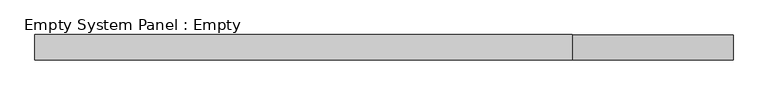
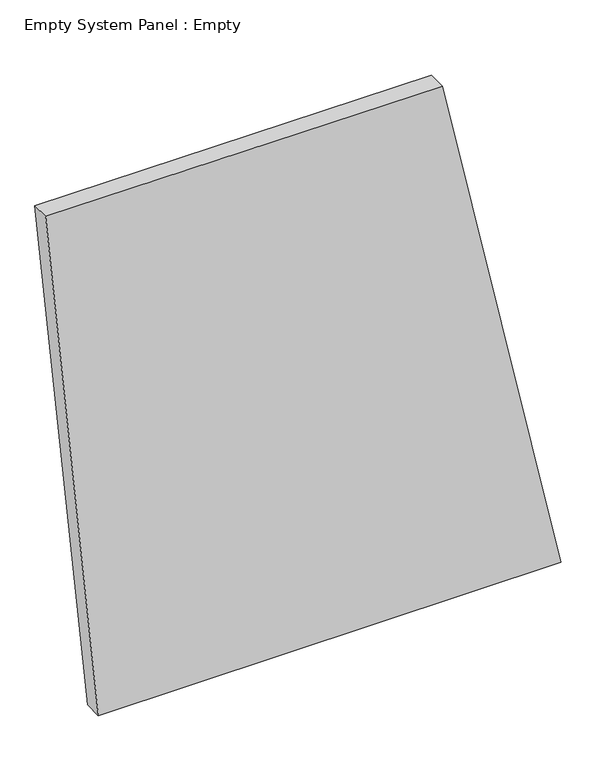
"""IFC4 building model written with IfcOpenShell, lengths in millimetres: plate geometry, Empty System Panel : Empty."""

import ifcopenshell
import ifcopenshell.guid

model = None  # the IFC model being written
_history = None  # IfcOwnerHistory: only IFC2X3 demands one
_inside = {}  # id of a spatial element -> (the spatial element, [elements in it])
_under = {}  # id of a project, library or spatial element -> (it, [spatial elements below it])
_declared = {}  # id of a project -> (the project, [libraries it declares])
_typed = {}  # id of a type object -> (the type object, [elements of that type])
_made_of = {}  # id of a material, layer set ... -> (it, [elements and type objects made of it])


def new_model(schema):
    """Start an empty IFC model of exactly this schema.

    Asked for "IFC4X3", IfcOpenShell would pick the latest addendum, in which some entities
    have other attributes; the version numbers below select the first issue.
    IFC2X3 requires an IfcOwnerHistory on every rooted entity: one is made here for all.
    """
    global model, _history
    if schema == "IFC4X3":
        model = ifcopenshell.file(schema_version=(4, 3, 0, 0))
    else:
        model = ifcopenshell.file(schema=schema)
    _inside.clear()
    _under.clear()
    _declared.clear()
    _typed.clear()
    _made_of.clear()
    _history = None
    if model.schema == "IFC2X3":
        org = make("IfcOrganization", Name="unknown")
        user = make(
            "IfcPersonAndOrganization",
            ThePerson=make("IfcPerson", FamilyName="unknown"),
            TheOrganization=org,
        )
        app = make(
            "IfcApplication",
            ApplicationDeveloper=org,
            Version="unknown",
            ApplicationFullName="unknown",
            ApplicationIdentifier="unknown",
        )
        _history = make(
            "IfcOwnerHistory",
            OwningUser=user,
            OwningApplication=app,
            ChangeAction="ADDED",
            CreationDate=0,
        )
    return model


def make(cls, **values):
    """One entity of the class cls with the attributes given. An attribute that is None is left unset."""
    return model.create_entity(
        cls, **{name: value for name, value in values.items() if value is not None}
    )


def rooted(cls, **values):
    """An entity with a GlobalId (a new one), such as an element, a storey or a relation."""
    return make(cls, GlobalId=ifcopenshell.guid.new(), OwnerHistory=_history, **values)


def si_unit(unit_type, name, prefix=None):
    """IfcSIUnit, for example si_unit("LENGTHUNIT", "METRE", prefix="MILLI")."""
    return make("IfcSIUnit", UnitType=unit_type, Prefix=prefix, Name=name)


def assignment(units):
    """IfcUnitAssignment: the units of a project."""
    return None if units is None else make("IfcUnitAssignment", Units=units)


def point(xyz):
    """IfcCartesianPoint."""
    return None if xyz is None else make("IfcCartesianPoint", Coordinates=xyz)


def direction(xyz):
    """IfcDirection."""
    return None if xyz is None else make("IfcDirection", DirectionRatios=xyz)


def frame(location, z_axis=None, x_axis=None):
    """IfcAxis2Placement3D, a coordinate frame: its origin and axes. An axis left out is left unset."""
    return make(
        "IfcAxis2Placement3D",
        Location=point(location),
        Axis=direction(z_axis),
        RefDirection=direction(x_axis),
    )


def origin():
    """The frame at (0, 0, 0) with its axes left unset."""
    return frame((0.0, 0.0, 0.0))


def place(relative_to, where):
    """IfcLocalPlacement: puts the frame where relative to a parent placement (None: the world)."""
    return make(
        "IfcLocalPlacement", PlacementRelTo=relative_to, RelativePlacement=where
    )


def context(
    kind, dimensions, precision=None, world=None, true_north=None, identifier=None
):
    """IfcGeometricRepresentationContext, for example the 3D "Model" context."""
    return make(
        "IfcGeometricRepresentationContext",
        ContextIdentifier=identifier,
        ContextType=kind,
        CoordinateSpaceDimension=dimensions,
        Precision=precision,
        WorldCoordinateSystem=world,
        TrueNorth=true_north,
    )


def project(units=None, contexts=None):
    """IfcProject with its units and contexts."""
    return rooted(
        "IfcProject",
        Name="project",
        RepresentationContexts=contexts,
        UnitsInContext=assignment(units),
    )


def spatial(cls, under=None, at=None, **own):
    """A site, building, storey or space (cls), placed at a placement, below another one or the project."""
    s = rooted(cls, ObjectPlacement=at, **own)
    if under is not None:
        _under.setdefault(under.id(), (under, []))[1].append(s)
    return s


def polyline(points):
    """IfcPolyline through the points."""
    return make("IfcPolyline", Points=[point(p) for p in points])


def outline(outer, holes=None, kind="AREA"):
    """IfcArbitraryClosedProfileDef: a profile drawn as a closed curve; with holes, ...WithVoids."""
    if holes is None:
        return make("IfcArbitraryClosedProfileDef", ProfileType=kind, OuterCurve=outer)
    return make(
        "IfcArbitraryProfileDefWithVoids",
        ProfileType=kind,
        OuterCurve=outer,
        InnerCurves=holes,
    )


def extrude(swept, where, along, depth):
    """IfcExtrudedAreaSolid: the profile swept, set in the frame where, extruded along a direction by depth."""
    return make(
        "IfcExtrudedAreaSolid",
        SweptArea=swept,
        Position=where,
        ExtrudedDirection=direction(along),
        Depth=depth,
    )


def shape(context_of_items, identifier, shape_type, items):
    """IfcShapeRepresentation: the items that make up one representation, for example the "Body"."""
    return make(
        "IfcShapeRepresentation",
        ContextOfItems=context_of_items,
        RepresentationIdentifier=identifier,
        RepresentationType=shape_type,
        Items=items,
    )


def source(mapping_origin, context_of_items, identifier, shape_type, items):
    """IfcRepresentationMap: a shape defined once, which mapped items show again and again."""
    return make(
        "IfcRepresentationMap",
        MappingOrigin=mapping_origin,
        MappedRepresentation=shape(context_of_items, identifier, shape_type, items),
    )


def transform(
    local_origin,
    x_axis=None,
    y_axis=None,
    z_axis=None,
    scale=None,
    scale2=None,
    scale3=None,
    uniform=True,
):
    """IfcCartesianTransformationOperator3D, or its non-uniform kind. x_axis, y_axis, z_axis: its Axis1, 2, 3."""
    if uniform:
        return make(
            "IfcCartesianTransformationOperator3D",
            Axis1=direction(x_axis),
            Axis2=direction(y_axis),
            LocalOrigin=point(local_origin),
            Scale=scale,
            Axis3=direction(z_axis),
        )
    return make(
        "IfcCartesianTransformationOperator3DnonUniform",
        Axis1=direction(x_axis),
        Axis2=direction(y_axis),
        LocalOrigin=point(local_origin),
        Scale=scale,
        Axis3=direction(z_axis),
        Scale2=scale2,
        Scale3=scale3,
    )


def mapped(mapping_source, mapping_target):
    """IfcMappedItem: shows the shape of a source again, moved by a transform."""
    return make(
        "IfcMappedItem", MappingSource=mapping_source, MappingTarget=mapping_target
    )


def made_of(thing, what):
    """Note that an element or type object is made of a material, layer set ...; save() writes the relation."""
    if what is not None:
        _made_of.setdefault(what.id(), (what, []))[1].append(thing)
    return thing


def element(
    cls,
    number,
    at=None,
    inside=None,
    cuts=None,
    type_object=None,
    material=None,
    context=None,
    identifier="Body",
    shape_type=None,
    held_by="IfcProductDefinitionShape",
    body=None,
    shapes=None,
    **own,
):
    """One element of the class cls, such as IfcWall. Its Tag is "e" and its number.

    at: its placement. inside: the storey or other place that contains it. cuts: it is an
    opening in that element (IfcRelVoidsElement). A single representation is given by context,
    identifier, shape_type and body (its items); several are given by shapes. held_by: the class
    of the entity that holds the representations. save() writes the other relations.
    """
    e = rooted(cls, Tag="e%d" % number, ObjectPlacement=at, **own)
    if body is not None:
        shapes = [shape(context, identifier, shape_type, body)]
    if shapes is not None:
        e.Representation = make(held_by, Representations=shapes)
    if inside is not None:
        _inside.setdefault(inside.id(), (inside, []))[1].append(e)
    if cuts is not None:
        rooted(
            "IfcRelVoidsElement", RelatingBuildingElement=cuts, RelatedOpeningElement=e
        )
    if type_object is not None:
        _typed.setdefault(type_object.id(), (type_object, []))[1].append(e)
    return made_of(e, material)


def aggregate(whole, parts):
    """IfcRelAggregates: a whole, such as a stair, and the parts it consists of."""
    return rooted("IfcRelAggregates", RelatingObject=whole, RelatedObjects=parts)


def save(model, path):
    """Write the relations noted so far, then the file.

    IfcRelAggregates (storeys below a building ...), IfcRelContainedInSpatialStructure (elements
    in a storey), IfcRelDefinesByType, IfcRelAssociatesMaterial and IfcRelDeclares: one each for
    every whole, place, type object, material and project.
    """
    for whole, parts in _under.values():
        aggregate(whole, parts)
    for where, things in _inside.values():
        rooted(
            "IfcRelContainedInSpatialStructure",
            RelatedElements=things,
            RelatingStructure=where,
        )
    for kind, things in _typed.values():
        rooted("IfcRelDefinesByType", RelatedObjects=things, RelatingType=kind)
    for what, things in _made_of.values():
        rooted("IfcRelAssociatesMaterial", RelatedObjects=things, RelatingMaterial=what)
    for by, libraries in _declared.values():
        rooted("IfcRelDeclares", RelatingContext=by, RelatedDefinitions=libraries)
    model.write(path)


def empty_system_panel_empty_c727257e(model_context):
    return source(origin(), model_context, "Body", "SweptSolid", [
        extrude(outline(polyline([(0.0, -1119.0570584), (0.0, 1406.1417946), (2972.7424432, 757.9546852), (2978.873986, -1406.1417946), (0.0, -1119.0570584)])), frame((0.0, -50.8, 0.0), z_axis=(0.0, 1.0, 0.0), x_axis=(0.0, 0.0, 1.0)), (0.0, 0.0, 1.0), 101.6),
    ])


if __name__ == "__main__":
    model = new_model("IFC4")
    model_context = context("Model", 3, world=origin())
    ifc_project = project(units=[si_unit("LENGTHUNIT", "METRE", prefix="MILLI")], contexts=[model_context])
    site = spatial("IfcSite", under=ifc_project)
    building = spatial("IfcBuilding", under=site)
    placement = place(None, origin())
    empty_system_panel_empty_shape = empty_system_panel_empty_c727257e(model_context)
    element("IfcPlate", 1, ObjectType="Empty System Panel : Empty", at=placement, inside=building, context=model_context, shape_type="MappedRepresentation", body=[
        mapped(empty_system_panel_empty_shape, transform((0.0, 0.0, 0.0), x_axis=(1.0, 0.0, 0.0), y_axis=(0.0, 1.0, 0.0), z_axis=(0.0, 0.0, 1.0))),
    ])
    save(model, "model.ifc")
